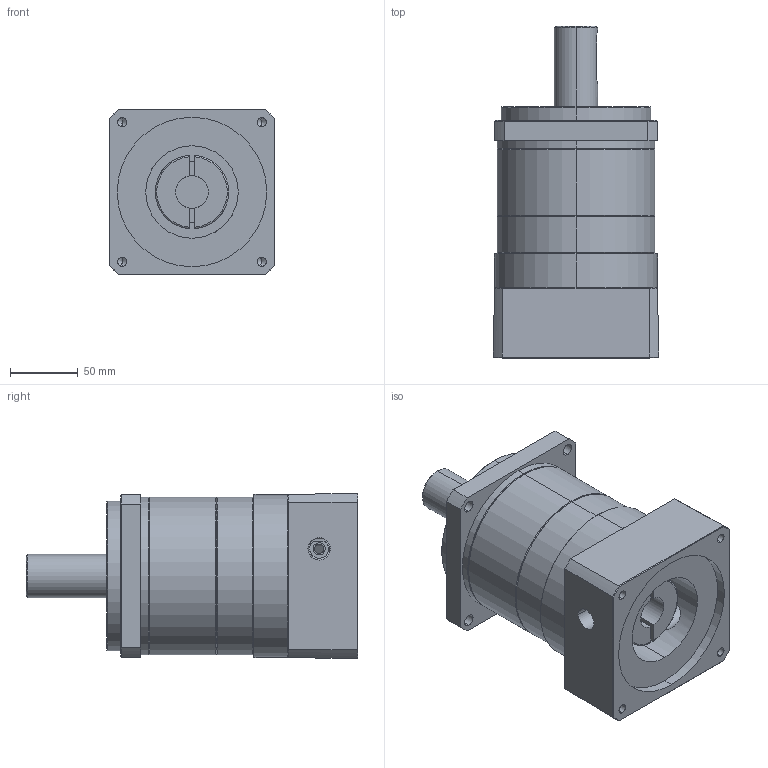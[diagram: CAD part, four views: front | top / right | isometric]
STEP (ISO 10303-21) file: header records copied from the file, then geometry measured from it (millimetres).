
FILE_DESCRIPTION (( 'STEP AP203' ), '1' );
FILE_NAME ('MF120X-L2£r110PCD£r145M8.STEP', '2014-07-24T01:20:57', ( 'KELLY' ), ( '' ), 'SwSTEP 2.0', 'SolidWorks 2012', '' );
FILE_SCHEMA (( 'CONFIG_CONTROL_DESIGN' ));
Length unit declared in the file: millimetre
Products named in the file (1): MF120X-L2｣r110PCD｣r145M8
Bounding box: 121.76 x 244.2 x 121.76 mm (x, y, z)
Volume: 2019607.1 mm3; surface area: 214598.4 mm2
Topology: 4 solids, 4 shells, 155 faces, 364 edges, 223 vertices
Faces by surface type: cylinder 64, plane 47, cone 40, torus 4
Entity records: 5043 total; most frequent: CARTESIAN_POINT 1381, DIRECTION 780, ORIENTED_EDGE 708, EDGE_CURVE 354, AXIS2_PLACEMENT_3D 316, VERTEX_POINT 223, EDGE_LOOP 191, CIRCLE 160
